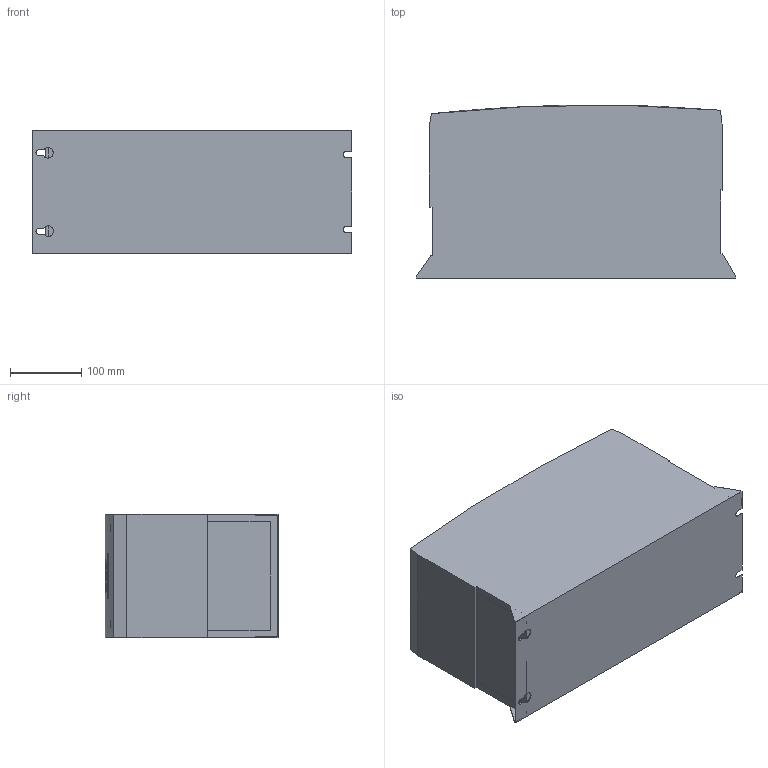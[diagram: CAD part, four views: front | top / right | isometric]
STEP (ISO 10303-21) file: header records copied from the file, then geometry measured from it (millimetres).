
FILE_DESCRIPTION (( 'STEP AP214' ), '1' );
FILE_NAME ('P2 S4 IP55.STEP', '2017-08-15T13:41:51', ( '' ), ( '' ), 'SwSTEP 2.0', 'SolidWorks 2017', '' );
FILE_SCHEMA (( 'AUTOMOTIVE_DESIGN' ));
Length unit declared in the file: millimetre
Products named in the file (1): P2 S4 IP55
Bounding box: 450 x 243.98 x 174 mm (x, y, z)
Volume: 17138050.3 mm3; surface area: 443292.6 mm2
Topology: 1 solids, 4 shells, 244 faces, 620 edges, 412 vertices
Faces by surface type: plane 89, cylinder 78, bspline 77
Entity records: 10812 total; most frequent: CARTESIAN_POINT 5598, ORIENTED_EDGE 1240, DIRECTION 760, EDGE_CURVE 620, VERTEX_POINT 412, VECTOR 284, LINE 284, EDGE_LOOP 276
